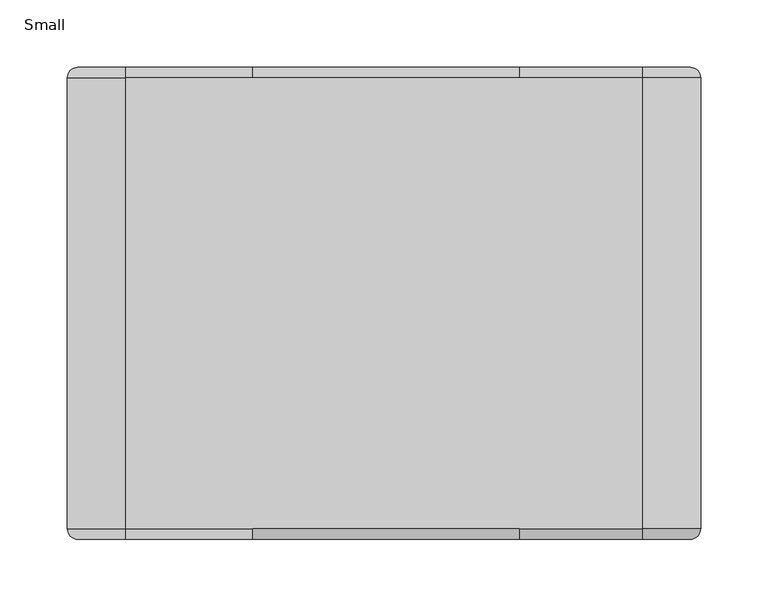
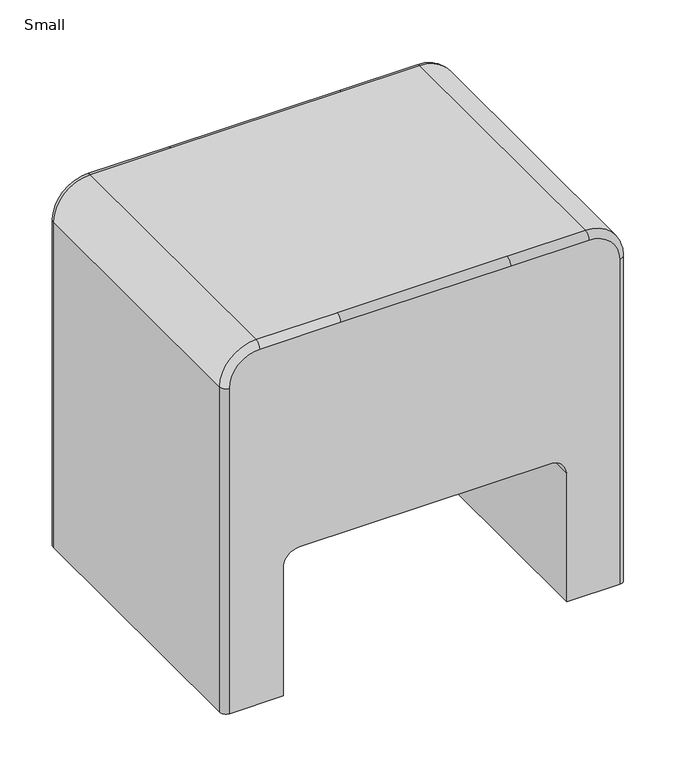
"""IFC4 building model written with IfcOpenShell, lengths in millimetres: furniture geometry, Steelcase Coalesse - Davos - Seating - Bench : Small."""

from ifc_helpers import new_model, si_unit, point, frame, frame_2d, origin, origin_with_axes, place, context, project, spatial, polyline, circle_curve, ellipse_curve, trimmed, segment, composite_curve, outline, extrude, source, transform, mapped, element, save
from ifc_brep_helpers import plane_surface, cylinder_surface, revolved_surface, advanced_brep


def small_4b0da466(model_context):
    return source(origin(), model_context, "Body", "SolidModel", [
        extrude(outline(composite_curve([segment(trimmed(circle_curve(frame_2d((-619.0274767, 196.051701)), 5.08), [point((-619.0274767, 201.131701))], [point((-613.9474767, 196.051701))], False, "CARTESIAN"), True, "CONTINUOUS"), segment(polyline([(-613.9474767, 196.051701), (-613.9474767, 155.411701)]), True, "CONTINUOUS"), segment(trimmed(circle_curve(frame_2d((-619.0274767, 155.411701)), 5.08), [point((-613.9474767, 155.411701))], [point((-619.0274767, 150.331701))], False, "CARTESIAN"), True, "CONTINUOUS"), segment(polyline([(-619.0274767, 150.331701), (-634.2621476, 150.331701)]), True, "CONTINUOUS"), segment(trimmed(circle_curve(frame_2d((-634.2621476, 155.411701)), 5.08), [point((-634.2621476, 150.331701))], [point((-639.3421476, 155.411701))], False, "CARTESIAN"), True, "CONTINUOUS"), segment(polyline([(-639.3421476, 155.411701), (-639.3421476, 196.051701)]), True, "CONTINUOUS"), segment(trimmed(circle_curve(frame_2d((-634.2621476, 196.051701)), 5.08), [point((-639.3421476, 196.051701))], [point((-634.2621476, 201.131701))], False, "CARTESIAN"), True, "CONTINUOUS"), segment(polyline([(-634.2621476, 201.131701), (-619.0274767, 201.131701)]), True, "CONTINUOUS")], self_intersect=False)), origin_with_axes(), (0.0, 0.0, 1.0), 3.4040124),
        extrude(outline(composite_curve([segment(trimmed(circle_curve(frame_2d((-619.0274767, -81.4021908)), 5.08), [point((-619.0274767, -76.3221908))], [point((-613.9474767, -81.4021908))], False, "CARTESIAN"), True, "CONTINUOUS"), segment(polyline([(-613.9474767, -81.4021908), (-613.9474767, -122.0421908)]), True, "CONTINUOUS"), segment(trimmed(circle_curve(frame_2d((-619.0274767, -122.0421908)), 5.08), [point((-613.9474767, -122.0421908))], [point((-619.0274767, -127.1221908))], False, "CARTESIAN"), True, "CONTINUOUS"), segment(polyline([(-619.0274767, -127.1221908), (-634.2621476, -127.1221908)]), True, "CONTINUOUS"), segment(trimmed(circle_curve(frame_2d((-634.2621476, -122.0421908)), 5.08), [point((-634.2621476, -127.1221908))], [point((-639.3421476, -122.0421908))], False, "CARTESIAN"), True, "CONTINUOUS"), segment(polyline([(-639.3421476, -122.0421908), (-639.3421476, -81.4021908)]), True, "CONTINUOUS"), segment(trimmed(circle_curve(frame_2d((-634.2621476, -81.4021908)), 5.08), [point((-639.3421476, -81.4021908))], [point((-634.2621476, -76.3221908))], False, "CARTESIAN"), True, "CONTINUOUS"), segment(polyline([(-634.2621476, -76.3221908), (-619.0274767, -76.3221908)]), True, "CONTINUOUS")], self_intersect=False)), origin_with_axes(), (0.0, 0.0, 1.0), 3.4040124),
        extrude(outline(composite_curve([segment(trimmed(circle_curve(frame_2d((-222.5763421, 196.051701)), 5.08), [point((-222.5763421, 201.131701))], [point((-217.4963421, 196.051701))], False, "CARTESIAN"), True, "CONTINUOUS"), segment(polyline([(-217.4963421, 196.051701), (-217.4963421, 155.411701)]), True, "CONTINUOUS"), segment(trimmed(circle_curve(frame_2d((-222.5763421, 155.411701)), 5.08), [point((-217.4963421, 155.411701))], [point((-222.5763421, 150.331701))], False, "CARTESIAN"), True, "CONTINUOUS"), segment(polyline([(-222.5763421, 150.331701), (-237.8110129, 150.331701)]), True, "CONTINUOUS"), segment(trimmed(circle_curve(frame_2d((-237.8110129, 155.411701)), 5.08), [point((-237.8110129, 150.331701))], [point((-242.8910129, 155.411701))], False, "CARTESIAN"), True, "CONTINUOUS"), segment(polyline([(-242.8910129, 155.411701), (-242.8910129, 196.051701)]), True, "CONTINUOUS"), segment(trimmed(circle_curve(frame_2d((-237.8110129, 196.051701)), 5.08), [point((-242.8910129, 196.051701))], [point((-237.8110129, 201.131701))], False, "CARTESIAN"), True, "CONTINUOUS"), segment(polyline([(-237.8110129, 201.131701), (-222.5763421, 201.131701)]), True, "CONTINUOUS")], self_intersect=False)), origin_with_axes(), (0.0, 0.0, 1.0), 3.4040124),
        extrude(outline(composite_curve([segment(trimmed(circle_curve(frame_2d((-222.5763421, -81.4021908)), 5.08), [point((-222.5763421, -76.3221908))], [point((-217.4963421, -81.4021908))], False, "CARTESIAN"), True, "CONTINUOUS"), segment(polyline([(-217.4963421, -81.4021908), (-217.4963421, -122.0421908)]), True, "CONTINUOUS"), segment(trimmed(circle_curve(frame_2d((-222.5763421, -122.0421908)), 5.08), [point((-217.4963421, -122.0421908))], [point((-222.5763421, -127.1221908))], False, "CARTESIAN"), True, "CONTINUOUS"), segment(polyline([(-222.5763421, -127.1221908), (-237.8110129, -127.1221908)]), True, "CONTINUOUS"), segment(trimmed(circle_curve(frame_2d((-237.8110129, -122.0421908)), 5.08), [point((-237.8110129, -127.1221908))], [point((-242.8910129, -122.0421908))], False, "CARTESIAN"), True, "CONTINUOUS"), segment(polyline([(-242.8910129, -122.0421908), (-242.8910129, -81.4021908)]), True, "CONTINUOUS"), segment(trimmed(circle_curve(frame_2d((-237.8110129, -81.4021908)), 5.08), [point((-242.8910129, -81.4021908))], [point((-237.8110129, -76.3221908))], False, "CARTESIAN"), True, "CONTINUOUS"), segment(polyline([(-237.8110129, -76.3221908), (-222.5763421, -76.3221908)]), True, "CONTINUOUS")], self_intersect=False)), origin_with_axes(), (0.0, 0.0, 1.0), 3.4040124),
        advanced_brep(
        [(-574.5619104, 211.4525251, 180.1955599), (-593.6119104, 211.4525251, 161.1455599), (-593.6119104, 211.4525251, 3.4040124), (-655.9944896, 211.4525251, 3.4040124), (-655.9944896, 211.4525251, 404.0231514), (-620.4343177, 211.4525251, 439.5833234), (-526.2304682, 211.4525251, 439.5833234), (-328.5303758, 211.4525251, 439.5833234), (-237.197922, 211.4525251, 439.5833234), (-201.63775, 211.4525251, 404.0231514), (-201.63775, 211.4525251, 3.4040124), (-263.2265792, 211.4525251, 3.4040124), (-263.2265792, 211.4525251, 161.1455599), (-282.2765792, 211.4525251, 180.1955599), (-282.2765792, -138.4442299, 180.1955599), (-263.2265792, -138.4442299, 161.1455599), (-263.2265792, -138.4442299, 3.4040124), (-201.63775, -138.4442299, 3.4040124), (-201.63775, -138.4442299, 404.0231514), (-237.197922, -138.4442299, 439.5833234), (-328.5303758, -138.4442299, 439.5833234), (-526.2304682, -138.4442299, 439.5833234), (-620.4343177, -138.4442299, 439.5833234), (-655.9944896, -138.4442299, 404.0231514), (-655.9944896, -138.4442299, 3.4040124), (-593.6119104, -138.4442299, 3.4040124), (-593.6119104, -138.4442299, 161.1455599), (-574.5619104, -138.4442299, 180.1955599), (-328.5303758, -130.8242299, 447.2033234), (-526.2304682, -130.8242299, 447.2033234), (-237.197922, -130.8242299, 447.2033234), (-237.197922, 203.8325251, 447.2033234), (-328.5303758, 203.8325251, 447.2033234), (-526.2304682, 203.8325251, 447.2033234), (-620.4343177, 203.8325251, 447.2033234), (-620.4343177, -130.8242299, 447.2033234), (-194.01775, -130.8242299, 404.0231514), (-194.01775, 203.8325251, 404.0231514), (-194.01775, 203.8325251, 3.4040124), (-194.01775, -130.8242299, 3.4040124), (-663.6144896, 203.8325251, 404.0231514), (-663.6144896, -130.8242299, 404.0231514), (-663.6144896, -130.8242299, 3.4040124), (-663.6144896, 203.8325251, 3.4040124)],
        [
            (0, 1, circle_curve(frame((-574.5619104, 211.4525251, 161.1455599), z_axis=(0.0, -1.0, 0.0), x_axis=(1.0, 0.0, 0.0)), 19.05)),
            (1, 2),
            (2, 3),
            (3, 4),
            (4, 5, circle_curve(frame((-620.4343177, 211.4525251, 404.0231514), z_axis=(0.0, 1.0, 0.0), x_axis=(0.0, 0.0, 1.0)), 35.560172)),
            (5, 6),
            (6, 7),
            (7, 8),
            (8, 9, circle_curve(frame((-237.197922, 211.4525251, 404.0231514), z_axis=(0.0, 1.0, 0.0), x_axis=(0.0, 0.0, 1.0)), 35.560172)),
            (9, 10),
            (10, 11),
            (11, 12),
            (12, 13, circle_curve(frame((-282.2765792, 211.4525251, 161.1455599), z_axis=(0.0, -1.0, 0.0), x_axis=(1.0, 0.0, 0.0)), 19.05)),
            (13, 0),
            (14, 15, circle_curve(frame((-282.2765792, -138.4442299, 161.1455599), z_axis=(0.0, 1.0, 0.0), x_axis=(1.0, 0.0, 0.0)), 19.05)),
            (15, 16),
            (16, 17),
            (17, 18),
            (18, 19, circle_curve(frame((-237.197922, -138.4442299, 404.0231514), z_axis=(0.0, -1.0, 0.0), x_axis=(0.0, 0.0, 1.0)), 35.560172)),
            (19, 20),
            (20, 21),
            (21, 22),
            (22, 23, circle_curve(frame((-620.4343177, -138.4442299, 404.0231514), z_axis=(0.0, -1.0, 0.0), x_axis=(0.0, 0.0, 1.0)), 35.560172)),
            (23, 24),
            (24, 25),
            (25, 26),
            (26, 27, circle_curve(frame((-574.5619104, -138.4442299, 161.1455599), z_axis=(0.0, 1.0, 0.0), x_axis=(1.0, 0.0, 0.0)), 19.05)),
            (27, 14),
            (13, 14),
            (27, 0),
            (20, 28, circle_curve(frame((-328.5303758, -130.8242299, 439.5833234), z_axis=(-1.0, 0.0, 0.0), x_axis=(0.0, 0.0, 1.0)), 7.62)),
            (28, 29),
            (29, 21, circle_curve(frame((-526.2304682, -130.8242299, 439.5833234), z_axis=(1.0, 0.0, 0.0), x_axis=(0.0, 0.0, 1.0)), 7.62)),
            (28, 30),
            (30, 31),
            (31, 32),
            (32, 33),
            (33, 34),
            (34, 35),
            (35, 29),
            (32, 7, circle_curve(frame((-328.5303758, 203.8325251, 439.5833234), z_axis=(-1.0, 0.0, 0.0), x_axis=(0.0, 0.0, 1.0)), 7.62)),
            (6, 33, circle_curve(frame((-526.2304682, 203.8325251, 439.5833234), z_axis=(1.0, 0.0, 0.0), x_axis=(0.0, 0.0, 1.0)), 7.62)),
            (19, 30, circle_curve(frame((-237.197922, -130.8242299, 439.5833234), z_axis=(-1.0, 0.0, 0.0), x_axis=(0.0, 0.0, -1.0)), 7.62)),
            (31, 8, circle_curve(frame((-237.197922, 203.8325251, 439.5833234), z_axis=(-1.0, 0.0, 0.0), x_axis=(0.0, 0.0, -1.0)), 7.62)),
            (18, 36, circle_curve(frame((-201.63775, -130.8242299, 404.0231514), z_axis=(0.0, 0.0, 1.0), x_axis=(-1.0, 0.0, 0.0)), 7.62)),
            (36, 30, circle_curve(frame((-237.197922, -130.8242299, 404.0231514), z_axis=(0.0, -1.0, 0.0), x_axis=(0.0, 0.0, 1.0)), 43.180172)),
            (36, 37),
            (37, 31, circle_curve(frame((-237.197922, 203.8325251, 404.0231514), z_axis=(0.0, -1.0, 0.0), x_axis=(0.0, 0.0, 1.0)), 43.180172)),
            (37, 9, circle_curve(frame((-201.63775, 203.8325251, 404.0231514), z_axis=(0.0, 0.0, 1.0), x_axis=(-1.0, 0.0, 0.0)), 7.62)),
            (16, 11),
            (10, 38, circle_curve(frame((-201.63775, 203.8325251, 3.4040124), z_axis=(0.0, 0.0, -1.0), x_axis=(-1.0, 0.0, 0.0)), 7.62)),
            (38, 39),
            (39, 17, circle_curve(frame((-201.63775, -130.8242299, 3.4040124), z_axis=(0.0, 0.0, -1.0), x_axis=(-1.0, 0.0, 0.0)), 7.62)),
            (39, 36),
            (38, 37),
            (5, 34, circle_curve(frame((-620.4343177, 203.8325251, 439.5833234), z_axis=(1.0, 0.0, 0.0), x_axis=(0.0, 0.0, 1.0)), 7.62)),
            (35, 22, circle_curve(frame((-620.4343177, -130.8242299, 439.5833234), z_axis=(1.0, 0.0, 0.0), x_axis=(0.0, 0.0, 1.0)), 7.62)),
            (4, 40, circle_curve(frame((-655.9944896, 203.8325251, 404.0231514), z_axis=(0.0, 0.0, 1.0), x_axis=(-1.0, 0.0, 0.0)), 7.62)),
            (40, 34, circle_curve(frame((-620.4343177, 203.8325251, 404.0231514), z_axis=(0.0, 1.0, 0.0), x_axis=(0.0, 0.0, 1.0)), 43.180172)),
            (40, 41),
            (41, 35, circle_curve(frame((-620.4343177, -130.8242299, 404.0231514), z_axis=(0.0, 1.0, 0.0), x_axis=(0.0, 0.0, 1.0)), 43.180172)),
            (41, 23, circle_curve(frame((-655.9944896, -130.8242299, 404.0231514), z_axis=(0.0, 0.0, 1.0), x_axis=(-1.0, 0.0, 0.0)), 7.62)),
            (2, 25),
            (24, 42, circle_curve(frame((-655.9944896, -130.8242299, 3.4040124), z_axis=(0.0, 0.0, -1.0), x_axis=(-1.0, 0.0, 0.0)), 7.62)),
            (42, 43),
            (43, 3, circle_curve(frame((-655.9944896, 203.8325251, 3.4040124), z_axis=(0.0, 0.0, -1.0), x_axis=(-1.0, 0.0, 0.0)), 7.62)),
            (43, 40),
            (42, 41),
            (26, 1),
            (15, 12),
        ],
        [
            plane_surface(frame((-328.5303758, 211.4525251, 437.6781514), z_axis=(0.0, 1.0, 0.0), x_axis=(0.0, 0.0, -1.0))),
            plane_surface(frame((-328.5303758, -138.4442299, 437.6781514), z_axis=(0.0, -1.0, 0.0), x_axis=(0.0, 0.0, 1.0))),
            plane_surface(frame((-328.5303758, 211.4525251, 180.1955599), z_axis=(0.0, 0.0, -1.0), x_axis=(0.0, -1.0, 0.0))),
            cylinder_surface(frame((-328.5303758, -130.8242299, 439.5833234), z_axis=(-1.0, 0.0, 0.0), x_axis=(0.0, 0.0, 1.0)), 7.62),
            plane_surface(frame((-526.2304682, -130.8242299, 447.2033234), z_axis=(0.0, 0.0, 1.0), x_axis=(1.0, 0.0, 0.0))),
            cylinder_surface(frame((-328.5303758, 203.8325251, 439.5833234), z_axis=(-1.0, 0.0, 0.0), x_axis=(0.0, 0.0, 1.0)), 7.62),
            cylinder_surface(frame((-328.5303758, -130.8242299, 439.5833234), z_axis=(-1.0, 0.0, 0.0), x_axis=(0.0, 0.0, -1.0)), 7.62),
            cylinder_surface(frame((-328.5303758, 203.8325251, 439.5833234), z_axis=(-1.0, 0.0, 0.0), x_axis=(0.0, 0.0, -1.0)), 7.62),
            revolved_surface(trimmed(ellipse_curve(frame((-237.197922, -130.8242299, 439.5833234), z_axis=(-1.0, 0.0, 0.0), x_axis=(0.0, 0.0, -1.0)), 7.62, 7.62), [point((-237.197922, -138.4442299, 439.5833234))], [point((-237.197922, -130.8242299, 447.2033234))], True, "CARTESIAN"), (-237.197922, 228.8781826, 404.0231514), (0.0, 1.0, 0.0)),
            cylinder_surface(frame((-237.197922, 228.8781826, 404.0231514), z_axis=(0.0, 1.0, 0.0), x_axis=(0.0, 0.0, 1.0)), 43.180172),
            revolved_surface(trimmed(ellipse_curve(frame((-237.197922, 203.8325251, 439.5833234), z_axis=(-1.0, 0.0, 0.0), x_axis=(0.0, 0.0, -1.0)), 7.62, 7.62), [point((-237.197922, 203.8325251, 447.2033234))], [point((-237.197922, 211.4525251, 439.5833234))], True, "CARTESIAN"), (-237.197922, 228.8781826, 404.0231514), (0.0, 1.0, 0.0)),
            plane_surface(frame((-206.717922, 228.8781826, 3.4040124), z_axis=(0.0, 0.0, -1.0), x_axis=(0.0, 1.0, 0.0))),
            cylinder_surface(frame((-201.63775, -130.8242299, 404.0231514), z_axis=(0.0, 0.0, 1.0), x_axis=(-1.0, 0.0, 0.0)), 7.62),
            plane_surface(frame((-194.01775, -130.8242299, 404.0231514), z_axis=(1.0, 0.0, 0.0), x_axis=(0.0, 0.0, -1.0))),
            cylinder_surface(frame((-201.63775, 203.8325251, 404.0231514), z_axis=(0.0, 0.0, 1.0), x_axis=(-1.0, 0.0, 0.0)), 7.62),
            cylinder_surface(frame((-526.2304682, 203.8325251, 439.5833234), z_axis=(1.0, 0.0, 0.0), x_axis=(0.0, 0.0, 1.0)), 7.62),
            cylinder_surface(frame((-526.2304682, -130.8242299, 439.5833234), z_axis=(1.0, 0.0, 0.0), x_axis=(0.0, 0.0, 1.0)), 7.62),
            revolved_surface(trimmed(ellipse_curve(frame((-620.4343177, 203.8325251, 439.5833234), z_axis=(1.0, 0.0, 0.0), x_axis=(0.0, 0.0, 1.0)), 7.62, 7.62), [point((-620.4343177, 211.4525251, 439.5833234))], [point((-620.4343177, 203.8325251, 447.2033234))], True, "CARTESIAN"), (-620.4343177, 228.8781826, 404.0231514), (0.0, -1.0, 0.0)),
            cylinder_surface(frame((-620.4343177, 228.8781826, 404.0231514), z_axis=(0.0, -1.0, 0.0), x_axis=(0.0, 0.0, 1.0)), 43.180172),
            revolved_surface(trimmed(ellipse_curve(frame((-620.4343177, -130.8242299, 439.5833234), z_axis=(1.0, 0.0, 0.0), x_axis=(0.0, 0.0, 1.0)), 7.62, 7.62), [point((-620.4343177, -130.8242299, 447.2033234))], [point((-620.4343177, -138.4442299, 439.5833234))], True, "CARTESIAN"), (-620.4343177, 228.8781826, 404.0231514), (0.0, -1.0, 0.0)),
            plane_surface(frame((-650.9143177, 228.8781826, 3.4040124), z_axis=(0.0, 0.0, -1.0), x_axis=(0.0, 1.0, 0.0))),
            cylinder_surface(frame((-655.9944896, 203.8325251, 404.0231514), z_axis=(0.0, 0.0, 1.0), x_axis=(-1.0, 0.0, 0.0)), 7.62),
            plane_surface(frame((-663.6144896, 203.8325251, 404.0231514), z_axis=(-1.0, 0.0, 0.0), x_axis=(0.0, 0.0, -1.0))),
            cylinder_surface(frame((-655.9944896, -130.8242299, 404.0231514), z_axis=(0.0, 0.0, 1.0), x_axis=(-1.0, 0.0, 0.0)), 7.62),
            revolved_surface(polyline([(-555.5119104, -138.4442299, 161.1455599), (-555.5119104, 211.45252509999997, 161.1455599)]), (-574.5619104, -138.4442299, 161.1455599), (0.0, -1.0, 0.0)),
            plane_surface(frame((-593.6119104, 211.4525251, 161.1455599), z_axis=(1.0, 0.0, 0.0), x_axis=(0.0, -1.0, 0.0))),
            plane_surface(frame((-263.2265792, 211.4525251, 3.4040124), z_axis=(-1.0, 0.0, 0.0), x_axis=(0.0, -1.0, 0.0))),
            revolved_surface(polyline([(-263.2265792, -138.44422989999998, 161.1455599), (-263.2265792, 211.4525251, 161.1455599)]), (-282.2765792, 216.2403236, 161.1455599), (0.0, -1.0, 0.0)),
        ],
        [
            (0, [[1, 2, 3, 4, 5, 6, 7, 8, 9, 10, 11, 12, 13, 14]]),
            (1, [[15, 16, 17, 18, 19, 20, 21, 22, 23, 24, 25, 26, 27, 28]]),
            (2, [[-14, 29, -28, 30]]),
            (3, [[-21, 31, 32, 33]]),
            (4, [[-32, 34, 35, 36, 37, 38, 39, 40]]),
            (5, [[-37, 41, -7, 42]]),
            (6, [[-20, 43, -34, -31]]),
            (7, [[-36, 44, -8, -41]]),
            (8, [[-19, 45, 46, -43]]),
            (9, [[-35, -46, 47, 48]]),
            (10, [[-44, -48, 49, -9]]),
            (11, [[-17, 50, -11, 51, 52, 53]]),
            (12, [[-18, -53, 54, -45]]),
            (13, [[-47, -54, -52, 55]]),
            (14, [[-10, -49, -55, -51]]),
            (15, [[-6, 56, -38, -42]]),
            (16, [[-40, 57, -22, -33]]),
            (17, [[-5, 58, 59, -56]]),
            (18, [[-39, -59, 60, 61]]),
            (19, [[-57, -61, 62, -23]]),
            (20, [[-3, 63, -25, 64, 65, 66]]),
            (21, [[-4, -66, 67, -58]]),
            (22, [[-60, -67, -65, 68]]),
            (23, [[-24, -62, -68, -64]]),
            (24, [[-1, -30, -27, 69]]),
            (25, [[-2, -69, -26, -63]]),
            (26, [[-12, -50, -16, 70]]),
            (27, [[-13, -70, -15, -29]]),
        ],
    ),
    ])


if __name__ == "__main__":
    model = new_model("IFC4")
    model_context = context("Model", 3, world=origin())
    ifc_project = project(units=[si_unit("LENGTHUNIT", "METRE", prefix="MILLI")], contexts=[model_context])
    site = spatial("IfcSite", under=ifc_project)
    building = spatial("IfcBuilding", under=site)
    placement = place(None, origin())
    small_shape = small_4b0da466(model_context)
    element("IfcFurniture", 1, ObjectType="Steelcase Coalesse - Davos - Seating - Bench : Small", at=placement, inside=building, context=model_context, shape_type="MappedRepresentation", body=[
        mapped(small_shape, transform((0.0, 0.0, 0.0), x_axis=(1.0, 0.0, 0.0), y_axis=(0.0, 1.0, 0.0), z_axis=(0.0, 0.0, 1.0))),
    ])
    save(model, "model.ifc")
